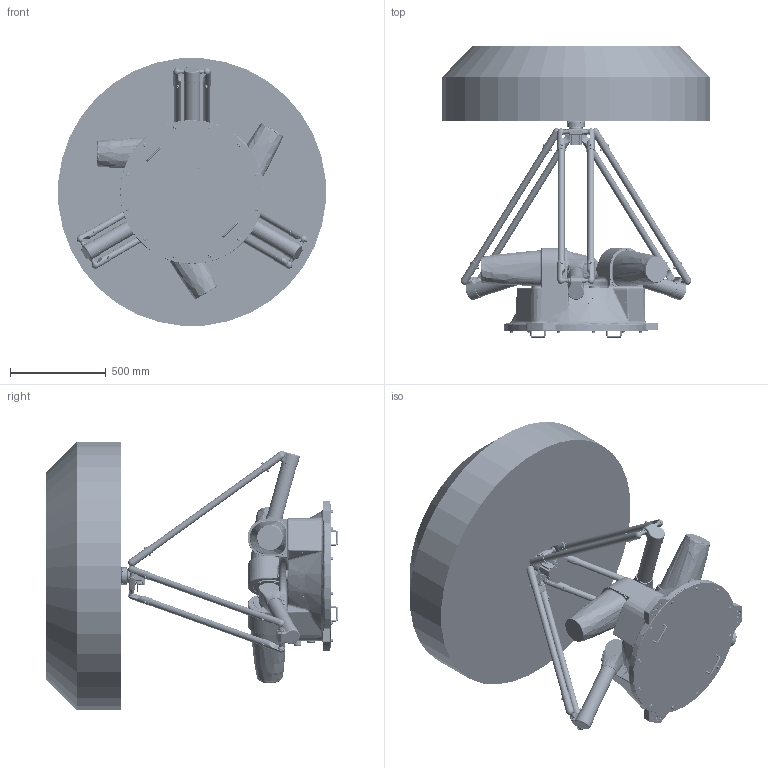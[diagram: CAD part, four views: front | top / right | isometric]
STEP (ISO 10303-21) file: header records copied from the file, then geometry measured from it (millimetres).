
FILE_DESCRIPTION (( 'STEP AP214' ), '1' );
FILE_NAME ('AP15X-1400-1544-T0-V3.0.0.STEP', '2025-08-21T03:48:14', ( '' ), ( '' ), 'SwSTEP 2.0', 'SolidWorks 2017', '' );
FILE_SCHEMA (( 'AUTOMOTIVE_DESIGN' ));
Length unit declared in the file: millimetre
Products named in the file (6): AP25X-2200-1544-T4-V1.0.0; AP15X-1400-1544-T0-V3.0.0; 2-AP203X-02-01-00; AP15X-1400-1544-T9-V3.0.0; AP15X-1600-1544-T1-V1.0.1; AP15X-1600-1544-T2-V1.0.0
Assembly tree (12 placements, depth 2):
  AP15X-1400-1544-T0-V3.0.0
    AP15X-1600-1544-T1-V1.0.1
    AP15X-1600-1544-T2-V1.0.0  x3
    2-AP203X-02-01-00  x6
    AP25X-2200-1544-T4-V1.0.0
    AP15X-1400-1544-T9-V3.0.0
Bounding box: 1395.88 x 1522.5 x 1395.88 mm (x, y, z)
Volume: 554870219.7 mm3; surface area: 9524772.6 mm2
Topology: 67 solids, 422 shells, 10624 faces, 28257 edges, 17850 vertices
Faces by surface type: cylinder 3589, bspline 2599, plane 2486, cone 1425, torus 376, sphere 149
Entity records: 535040 total; most frequent: CARTESIAN_POINT 274379, ORIENTED_EDGE 39316, DIRECTION 31589, EDGE_CURVE 20328, VERTEX_POINT 13234, AXIS2_PLACEMENT_3D 11944, EDGE_LOOP 8532, UNCERTAINTY_MEASURE_WITH_UNIT 7716
